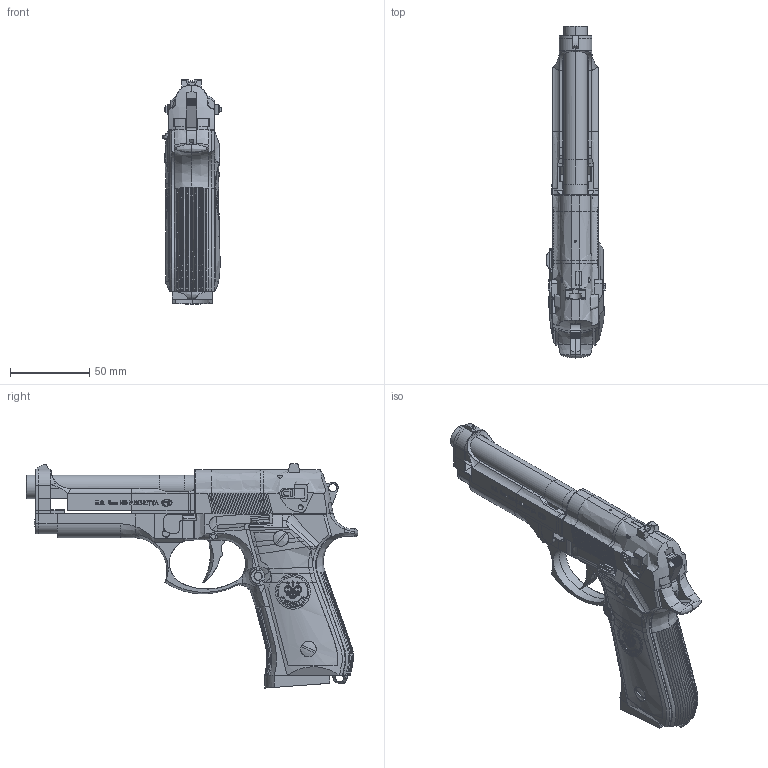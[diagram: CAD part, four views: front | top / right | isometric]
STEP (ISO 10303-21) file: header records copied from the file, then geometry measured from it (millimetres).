
FILE_DESCRIPTION(/* description */ (''),/* implementation_level */ '2;1');
FILE_NAME(/* name */ 'Beretta STEP',/* time_stamp */ '2011-09-25T10:42:07+02:00',/* author */ (''),/* organization */ (''),/* preprocessor_version */ 'ST-DEVELOPER v10',/* originating_system */ '',/* authorisation */ '');
FILE_SCHEMA (('CONFIG_CONTROL_DESIGN'));
Products named in the file (1): 1
Bounding box: 37.04 x 209.01 x 141.18 mm (x, y, z)
Volume: 78168.3 mm3; surface area: 152318.1 mm2
Topology: 28 solids, 90 shells, 3569 faces, 9917 edges, 6328 vertices
Faces by surface type: bspline 2130, plane 1439
Entity records: 136867 total; most frequent: CARTESIAN_POINT 75697, ORIENTED_EDGE 19081, EDGE_CURVE 9874, B_SPLINE_CURVE_WITH_KNOTS 8657, VERTEX_POINT 6365, EDGE_LOOP 3790, ADVANCED_FACE 3569, FACE_OUTER_BOUND 3569
